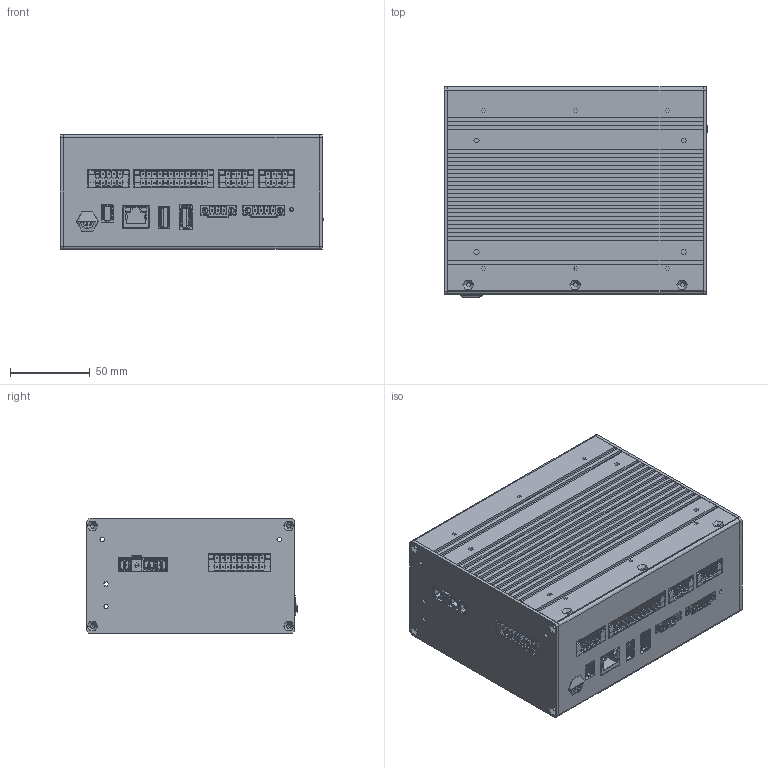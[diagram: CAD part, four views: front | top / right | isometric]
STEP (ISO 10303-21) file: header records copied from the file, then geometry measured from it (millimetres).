
FILE_DESCRIPTION (( 'STEP AP214' ), '1' );
FILE_NAME ('三维模型_CS Mini控制柜_V01.STEP', '2025-04-16T08:05:06', ( '' ), ( '' ), 'SwSTEP 2.0', 'SolidWorks 2020', '' );
FILE_SCHEMA (( 'AUTOMOTIVE_DESIGN' ));
Length unit declared in the file: millimetre
Products named in the file (12): CS_Mini褲极; NA60401631_CS_MINI褲极耜啣1; NA60401630_CS-mini嶄褲极菁啣; NA60700486_CS-mini耜啣癹弇輸; -CS MINI IO BOARD_V1_1-021702.step; 三维模型_CS Mini控制柜_V01; NA60401632_CS_MINI褲极耜啣2; NA60401629_CS-mini嶄褲极裔啣; NA60700485_CS-mini嶄褲极路啣; -CS MINI  SAFETY CONTROL BOARD_V1_1-021702.step; 啋ん璃_CSMini; 羲壽偌聽_9EDGKS-7.62-L2-03P-1Y-02Z(H).stp
Assembly tree (12 placements, depth 3):
  三维模型_CS Mini控制柜_V01
    CS_Mini褲极
      NA60401629_CS-mini嶄褲极裔啣
      NA60401630_CS-mini嶄褲极菁啣
      NA60401631_CS_MINI褲极耜啣1
      NA60401632_CS_MINI褲极耜啣2
      NA60700485_CS-mini嶄褲极路啣
      NA60700486_CS-mini耜啣癹弇輸  x2
    啋ん璃_CSMini
      -CS MINI IO BOARD_V1_1-021702.step
      -CS MINI  SAFETY CONTROL BOARD_V1_1-021702.step
      羲壽偌聽_9EDGKS-7.62-L2-03P-1Y-02Z(H).stp
Bounding box: 165.1 x 131.6 x 72 mm (x, y, z)
Topology: 9 solids, 86 shells, 8899 faces, 25513 edges, 16768 vertices
Faces by surface type: plane 6002, cylinder 2227, bspline 374, cone 295, torus 1
Full cylindrical faces by diameter (mm): 0.4 x8
Entity records: 360577 total; most frequent: CARTESIAN_POINT 168863, ORIENTED_EDGE 50646, EDGE_CURVE 25448, B_SPLINE_CURVE_WITH_KNOTS 21909, DIRECTION 20966, VERTEX_POINT 16748, EDGE_LOOP 9496, AXIS2_PLACEMENT_3D 9124
